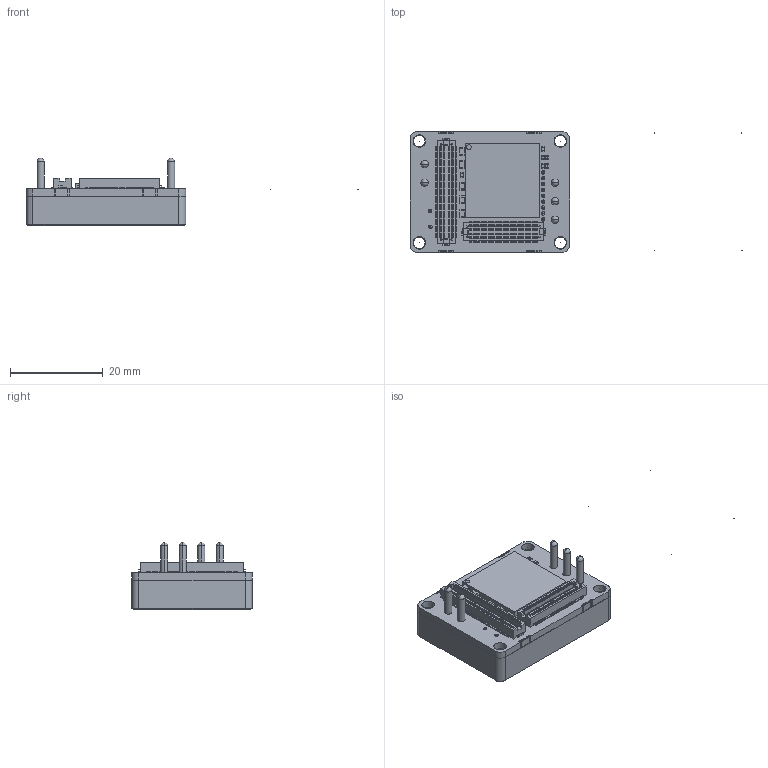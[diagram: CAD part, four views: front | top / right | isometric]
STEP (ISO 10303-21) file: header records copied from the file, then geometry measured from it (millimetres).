
FILE_DESCRIPTION(('Open CASCADE Model'),'2;1');
FILE_NAME('Open CASCADE Shape Model','2020-11-09T15:34:01',('Author'),( 'Open CASCADE'),'Open CASCADE STEP processor 6.8','Open CASCADE 6.8' ,'Unknown');
FILE_SCHEMA(('AUTOMOTIVE_DESIGN { 1 0 10303 214 1 1 1 1 }'));
Length unit declared in the file: millimetre
Products named in the file (71): PCB; Board; Open CASCADE STEP translator 6.8 8.1.1; Open CASCADE STEP translator 6.8 8.1.1.1; R31; R_0402; R30; R24; H4; 6523278960; Sphere; H3; H2; H1; TP10; 6523277120; 6523276720; Cylinder; TP11; R22; R21; R19; TP9; TP8; BRK4; 6523279920; BRK3; 6523279520; BRK2; BRK1; ORIGIN1; 6522926192; C99; 6248710448; Extruded; 6248711408; LAYERS1; 6522925952; C1; C3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
Assembly tree (119 placements, depth 4):
  PCB
    Board
      Open CASCADE STEP translator 6.8 8.1.1
        Open CASCADE STEP translator 6.8 8.1.1.1
    R31
      R_0402
    R30
      R_0402
    R24
      R_0402
    H4
      6523278960
        Sphere
    H3
      6523278960
        Sphere
    H2
      6523278960
        Sphere
    H1
      6523278960
        Sphere
    TP10
      6523277120
        Sphere
      6523276720
        Cylinder
    TP11
      6523276720
        Cylinder
      6523277120
        Sphere
    R22
      R_0402
    R21
      R_0402
    R19
      R_0402
    TP9
      6523277120
        Sphere
      6523276720
        Cylinder
    TP8
      6523276720
        Cylinder
      6523277120
        Sphere
    BRK4
      6523279920
        Sphere
    BRK3
      6523279520
        Sphere
    BRK2
      6523279920
        Sphere
    BRK1
      6523279520
        Sphere
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Bounding box: 71.76 x 26 x 14.59 mm (x, y, z)
Volume: 3816.2 mm3; surface area: 7379.8 mm2
Topology: 68 solids, 68 shells, 8151 faces, 22921 edges, 15002 vertices
Faces by surface type: plane 6759, cylinder 1345, sphere 35, cone 12
Full cylindrical faces by diameter (mm): 0.4 x12, 0.6 x4, 0.74 x11, 1 x1, 1.6 x5, 2.7 x4
Entity records: 243887 total; most frequent: CARTESIAN_POINT 43228, ORIENTED_EDGE 42780, DIRECTION 38957, EDGE_CURVE 21390, LINE 19079, VECTOR 19079, VERTEX_POINT 14046, AXIS2_PLACEMENT_3D 9939
